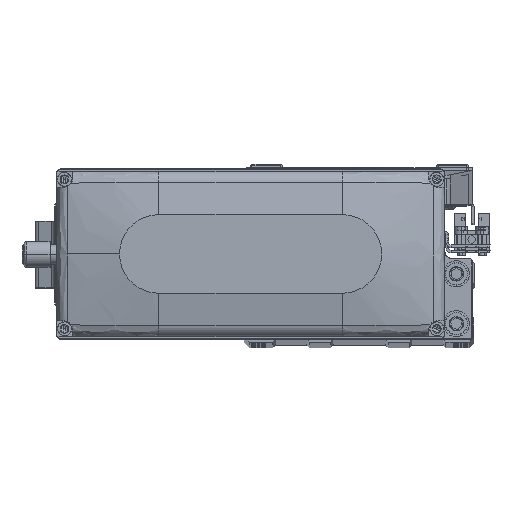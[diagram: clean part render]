
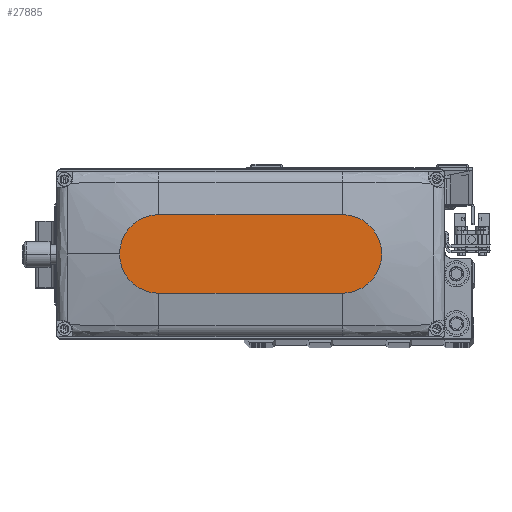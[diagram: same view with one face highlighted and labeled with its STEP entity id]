
A CAD part, top view. The second image highlights one B-rep face of the part: STEP entity #27885.
In plain terms, the highlighted planar face has unit normal (0, 0, 1).
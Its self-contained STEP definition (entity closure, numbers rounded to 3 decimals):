
#259 = CARTESIAN_POINT ( 'NONE',  ( 50., 0., 35. ) ) ;
#686 = ORIENTED_EDGE ( 'NONE', *, *, #37529, .T. ) ;
#844 = ORIENTED_EDGE ( 'NONE', *, *, #5075, .T. ) ;
#1728 = FACE_OUTER_BOUND ( 'NONE', #2915, .T. ) ;
#2629 = AXIS2_PLACEMENT_3D ( 'NONE', #43887, #7494, #23677 ) ;
#2915 = EDGE_LOOP ( 'NONE', ( #686, #24760, #844, #28631, #34902 ) ) ;
#4333 = VERTEX_POINT ( 'NONE', #25291 ) ;
#4553 = CARTESIAN_POINT ( 'NONE',  ( 35., -15., 35. ) ) ;
#5075 = EDGE_CURVE ( 'NONE', #4333, #24140, #19857, .T. ) ;
#6789 = EDGE_CURVE ( 'NONE', #24140, #44770, #52328, .T. ) ;
#7065 = LINE ( 'NONE', #23249, #40871 ) ;
#7494 = DIRECTION ( 'NONE',  ( 0., 0., 1. ) ) ;
#8120 = DIRECTION ( 'NONE',  ( 0., 0., 1. ) ) ;
#9025 = CARTESIAN_POINT ( 'NONE',  ( -35., 15., 35. ) ) ;
#13932 = DIRECTION ( 'NONE',  ( 1., 0., 0. ) ) ;
#14813 = DIRECTION ( 'NONE',  ( 0., 0., 1. ) ) ;
#17929 = PLANE ( 'NONE',  #33000 ) ;
#19857 = LINE ( 'NONE', #36078, #42840 ) ;
#20379 = CIRCLE ( 'NONE', #50110, 15. ) ;
#23249 = CARTESIAN_POINT ( 'NONE',  ( -35., 15., 35. ) ) ;
#23677 = DIRECTION ( 'NONE',  ( 1., 0., 0. ) ) ;
#24140 = VERTEX_POINT ( 'NONE', #4553 ) ;
#24310 = DIRECTION ( 'NONE',  ( 1., 0., 0. ) ) ;
#24760 = ORIENTED_EDGE ( 'NONE', *, *, #29846, .T. ) ;
#25291 = CARTESIAN_POINT ( 'NONE',  ( -35., -15., 35. ) ) ;
#25517 = CIRCLE ( 'NONE', #2629, 15. ) ;
#25982 = VERTEX_POINT ( 'NONE', #47208 ) ;
#27885 = ADVANCED_FACE ( 'NONE', ( #1728 ), #17929, .T. ) ;
#28631 = ORIENTED_EDGE ( 'NONE', *, *, #6789, .T. ) ;
#29403 = AXIS2_PLACEMENT_3D ( 'NONE', #44530, #8120, #24310 ) ;
#29846 = EDGE_CURVE ( 'NONE', #41645, #4333, #25517, .T. ) ;
#31005 = DIRECTION ( 'NONE',  ( 1., 0., 0. ) ) ;
#33000 = AXIS2_PLACEMENT_3D ( 'NONE', #34134, #50360, #13932 ) ;
#34134 = CARTESIAN_POINT ( 'NONE',  ( 0., 0., 35. ) ) ;
#34902 = ORIENTED_EDGE ( 'NONE', *, *, #35769, .T. ) ;
#35769 = EDGE_CURVE ( 'NONE', #44770, #25982, #20379, .T. ) ;
#36078 = CARTESIAN_POINT ( 'NONE',  ( -35., -15., 35. ) ) ;
#37529 = EDGE_CURVE ( 'NONE', #25982, #41645, #7065, .T. ) ;
#39490 = DIRECTION ( 'NONE',  ( -1., 0., 0. ) ) ;
#40871 = VECTOR ( 'NONE', #39490, 1000. ) ;
#41645 = VERTEX_POINT ( 'NONE', #9025 ) ;
#42840 = VECTOR ( 'NONE', #52294, 1000. ) ;
#43887 = CARTESIAN_POINT ( 'NONE',  ( -35., 0., 35. ) ) ;
#44530 = CARTESIAN_POINT ( 'NONE',  ( 35., 0., 35. ) ) ;
#44770 = VERTEX_POINT ( 'NONE', #259 ) ;
#47208 = CARTESIAN_POINT ( 'NONE',  ( 35., 15., 35. ) ) ;
#50110 = AXIS2_PLACEMENT_3D ( 'NONE', #51218, #14813, #31005 ) ;
#50360 = DIRECTION ( 'NONE',  ( 0., 0., 1. ) ) ;
#51218 = CARTESIAN_POINT ( 'NONE',  ( 35., 0., 35. ) ) ;
#52294 = DIRECTION ( 'NONE',  ( 1., 0., 0. ) ) ;
#52328 = CIRCLE ( 'NONE', #29403, 15. ) ;
